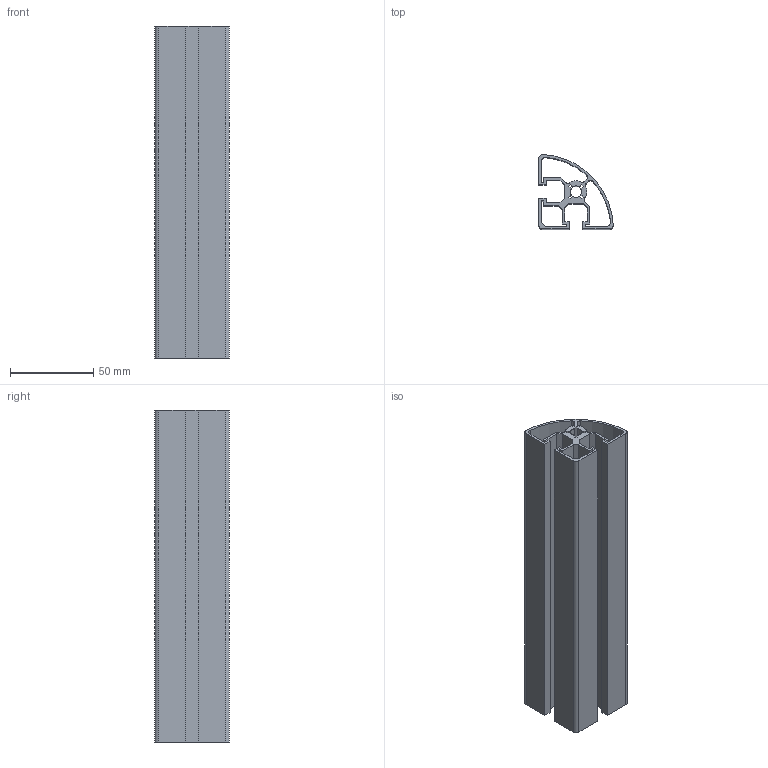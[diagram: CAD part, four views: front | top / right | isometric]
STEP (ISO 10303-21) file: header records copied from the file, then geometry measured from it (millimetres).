
FILE_DESCRIPTION (( 'STEP AP203' ), '1' );
FILE_NAME ('014254 REF 4545R.STEP', '2015-12-01T11:50:52', ( '' ), ( '' ), 'SwSTEP 2.0', 'SolidWorks 2015', '' );
FILE_SCHEMA (( 'CONFIG_CONTROL_DESIGN' ));
Length unit declared in the file: millimetre
Products named in the file (1): 014254 REF  4545R
Bounding box: 44.92 x 44.92 x 200 mm (x, y, z)
Volume: 89706.6 mm3; surface area: 98939.4 mm2
Topology: 1 solids, 1 shells, 81 faces, 237 edges, 158 vertices
Faces by surface type: plane 58, cylinder 23
Entity records: 2770 total; most frequent: CARTESIAN_POINT 477, ORIENTED_EDGE 474, DIRECTION 447, EDGE_CURVE 237, LINE 191, VECTOR 191, VERTEX_POINT 158, AXIS2_PLACEMENT_3D 128
